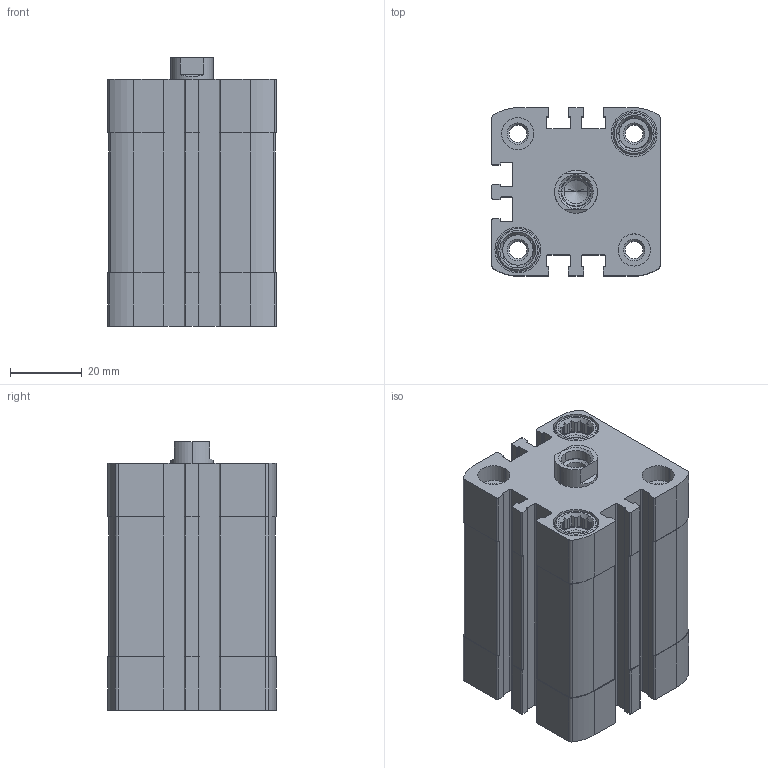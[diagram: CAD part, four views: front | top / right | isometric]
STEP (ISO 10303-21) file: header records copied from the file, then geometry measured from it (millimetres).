
FILE_DESCRIPTION (( 'STEP AP203' ), '1' );
FILE_NAME ('CCN32-25F.STEP', '2017-03-29T11:27:59', ( '' ), ( '' ), 'SwSTEP 2.0', 'SolidWorks 2016', '' );
FILE_SCHEMA (( 'CONFIG_CONTROL_DESIGN' ));
Length unit declared in the file: millimetre
Products named in the file (3): CCN-25---(Z); CCN-25_(KS); CCN32-25F
Assembly tree (2 placements, depth 2):
  CCN32-25F
    CCN-25---(Z)
    CCN-25_(KS)
Bounding box: 47 x 47 x 75 mm (x, y, z)
Volume: 106823.8 mm3; surface area: 39904 mm2
Topology: 2 solids, 2 shells, 479 faces, 1298 edges, 853 vertices
Faces by surface type: plane 267, cylinder 170, cone 42
Entity records: 15589 total; most frequent: CARTESIAN_POINT 2927, DIRECTION 2652, ORIENTED_EDGE 2592, EDGE_CURVE 1296, AXIS2_PLACEMENT_3D 970, VERTEX_POINT 853, VECTOR 712, LINE 712
